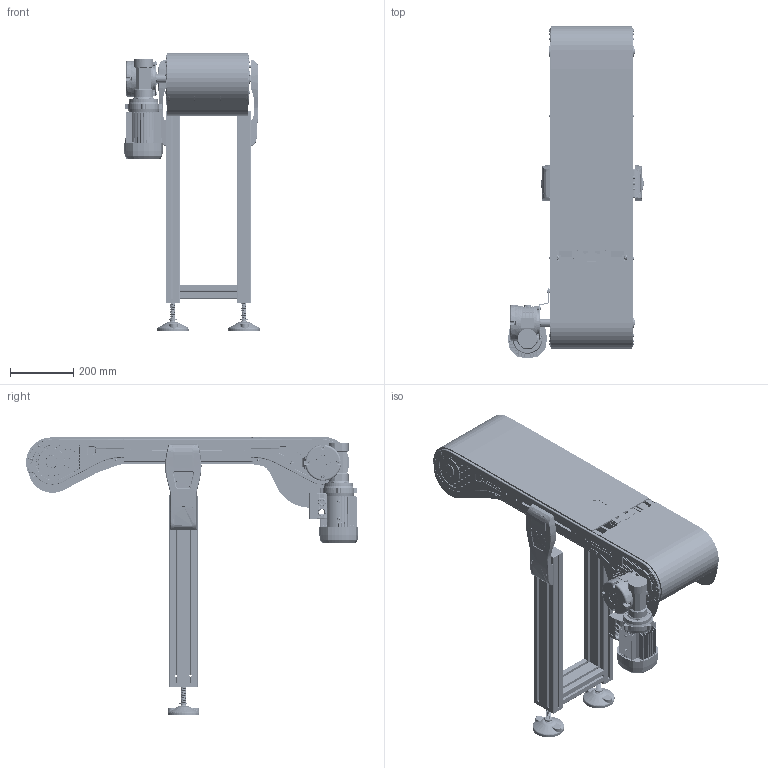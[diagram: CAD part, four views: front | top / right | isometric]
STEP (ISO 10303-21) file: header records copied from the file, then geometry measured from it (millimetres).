
FILE_DESCRIPTION (( 'STEP AP203' ), '1' );
FILE_NAME ('NASTRO_2010.step', '2026-04-28T07:55:16', ( 'Utente Windows' ), ( '' ), 'SwSTEP 2.0', 'SolidWorks 2024', '' );
FILE_SCHEMA (( 'CONFIG_CONTROL_DESIGN' ));
Length unit declared in the file: millimetre
Products named in the file (75): 2010.000.001_Default<A macchina>; 084.301.000 VITI ALUSIC_084.301.004; 2010.000.073; 084.802.062; 6205_2RS_BOMB_AE_AF0; PFL205-SUPPORTO; 084.307.006; 2010.000.015; 2010.000.037; 2010.000.031_Default<A macchina>; 6205_2RS_CAGE; 6205-2RSBOMB; 2010.000.074; 084.302.000 DADI ALUSIC 13x13-1_084.302.004; 6205_2RS_SFERA; RONDELLE UNI 6592_8.4x17 UNI 6592; 084.201.019-2; 2010.000.009_Default<A macchina>; FLANGIA_GAMBA_95_CON GIUNTI; 0612UNI5739-A2; 2010.000.007; 0816UNI7380-A2; 2010.000.004; 0824UNI6593-A2; 084.302.000 DADI ALUSIC 13x13 SX_084.302.004; 2010.000.014; JFM-2023-11; 2010.000.010_Default<A macchina>; 0820ISO2342-A2; 0812UNI5739-A2; 2010.000.030_Default<A macchina>; 2010.1000.P.200; 084.405.001; 0832UNI6593-A2; 6205_2RS_AI_AF0; 084.301.000 VITI ALUSIC1_084.301.003; CH05P_DX; 084.808.013; 55401; Circlip DIN 471 - 20 x 1.2_Circlip DIN 471 - 20 x 1.2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
Assembly tree (228 placements, depth 4):
  NASTRO_2010
    K1000_1_Default<A macchina>
    2010.1000.P.1B49.BR
      2010.000.003
      2010.000.004
      2010.000.029
      084.808.013
      2010.000.049
      2010.000.010_Default<A macchina>
      0408UNI5933-A2  x18
      2010.000.007
      0408UNI7380-A2  x8
      084.307.006  x2
        084.307.006
        0814UNI5923-A2
      0816UNI7380-A2  x6
      2010.000.016
      2010.000.011
      2010.000.026  x4
      084.802.062
      0820ISO2342-A2
      55401
        TO_1
      084.301.000 VITI ALUSIC_084.301.004  x4
      084.302.000 DADI ALUSIC 13x13 SX_084.302.004  x4
      084.803.017
      0612UNI5931-A2  x4
      2010.000.033_Default<A macchina>
      2010.000.032_Default<A macchina>
      2010.000.005  x2
      0832UNI6593-A2
      0820UNI5739-A2
      CHIAVETTE_A 8x7x20 UNI 6604-69  x2
      2010.000.014
      CHIAVETTE_A 8x7x30 UNI 6604-69
      0612UNI5739-A2  x4
      25UNI7435-A2  x5
      6205-2RSBOMB  x2
        6205_2RS_AI_AF0
        6205_2RS_CAGE
        6205_2RS_BOMB_AE_AF0
        6205_2RS_SFERA
        6205_2RS_SEAL
      PFL205-SUPPORTO  x4
      0812UNI5739-A2  x4
    2010.1000.P.200
      2010.000.001_Default<A macchina>
      2010.000.002
      2010.000.029
      2010.000.037
      2010.000.044
      2010.000.008_Default<A macchina>
      2010.000.009_Default<A macchina>
      0820UNI5739-A2  x2
      0824UNI6593-A2  x2
      0408UNI5933-A2  x21
      Circlip DIN 471 - 20 x 1.2_Circlip DIN 471 - 20 x 1.2  x2
      2010.000.015  x2
      0408UNI7380-A2  x8
      084.307.006  x2
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Bounding box: 428.01 x 1048.84 x 879.83 mm (x, y, z)
Volume: 13351142.6 mm3; surface area: 5670048.5 mm2
Topology: 319 solids, 319 shells, 19453 faces, 49643 edges, 31092 vertices
Faces by surface type: plane 8801, cylinder 4825, bspline 2357, cone 1813, torus 1213, sphere 444
Entity records: 496243 total; most frequent: CARTESIAN_POINT 195612, ORIENTED_EDGE 63788, DIRECTION 56369, EDGE_CURVE 31894, AXIS2_PLACEMENT_3D 20440, VERTEX_POINT 19992, LINE 15489, VECTOR 15489
